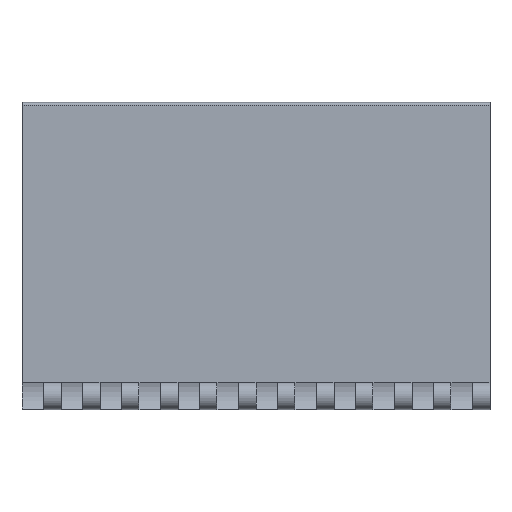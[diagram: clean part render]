
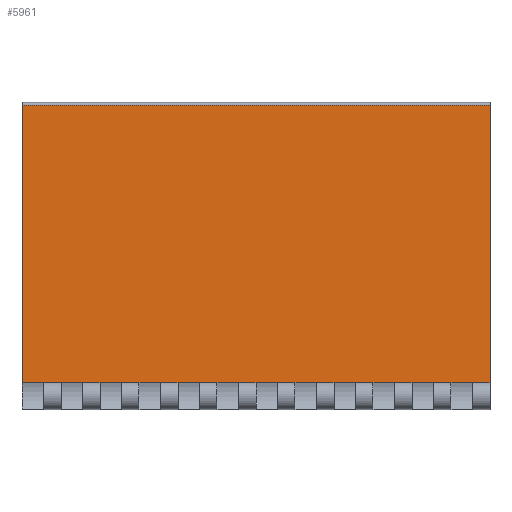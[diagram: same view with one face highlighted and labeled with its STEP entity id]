
A CAD part, left-side view. The second image highlights one B-rep face of the part: STEP entity #5961.
In plain terms, the highlighted planar face has unit normal (-1, 0, 0.013).
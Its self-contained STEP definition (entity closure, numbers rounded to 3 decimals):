
#1238=CARTESIAN_POINT('Line Origine',(-3.2,0.,4.4)) ;
#1242=CARTESIAN_POINT('Vertex',(-3.2,-76.2,4.4)) ;
#1244=CARTESIAN_POINT('Vertex',(-3.2,76.2,4.4)) ;
#5931=CARTESIAN_POINT('Axis2P3D Location',(-2.,0.,95.6)) ;
#5936=CARTESIAN_POINT('Line Origine',(-2.013,0.,94.613)) ;
#5940=CARTESIAN_POINT('Vertex',(-2.013,-76.2,94.613)) ;
#5942=CARTESIAN_POINT('Vertex',(-2.013,76.2,94.613)) ;
#5945=CARTESIAN_POINT('Line Origine',(-2.606,76.2,49.507)) ;
#5950=CARTESIAN_POINT('Line Origine',(-2.606,-76.2,49.507)) ;
#1239=DIRECTION('Vector Direction',(0.,1.,0.)) ;
#5932=DIRECTION('Axis2P3D Direction',(1.,0.,-0.013)) ;
#5933=DIRECTION('Axis2P3D XDirection',(-0.013,0.,-1.)) ;
#5937=DIRECTION('Vector Direction',(0.,1.,0.)) ;
#5946=DIRECTION('Vector Direction',(-0.013,0.,-1.)) ;
#5951=DIRECTION('Vector Direction',(-0.013,0.,-1.)) ;
#5934=AXIS2_PLACEMENT_3D('Plane Axis2P3D',#5931,#5932,#5933) ;
#5956=ORIENTED_EDGE('',*,*,#5944,.T.) ;
#5957=ORIENTED_EDGE('',*,*,#5949,.F.) ;
#5958=ORIENTED_EDGE('',*,*,#1246,.F.) ;
#5959=ORIENTED_EDGE('',*,*,#5954,.T.) ;
#1240=VECTOR('Line Direction',#1239,1.) ;
#5938=VECTOR('Line Direction',#5937,1.) ;
#5947=VECTOR('Line Direction',#5946,1.) ;
#5952=VECTOR('Line Direction',#5951,1.) ;
#5961=ADVANCED_FACE('PartBody',(#5960),#5935,.F.) ;
#1246=EDGE_CURVE('',#1243,#1245,#1241,.T.) ;
#5944=EDGE_CURVE('',#5941,#5943,#5939,.T.) ;
#5949=EDGE_CURVE('',#1245,#5943,#5948,.F.) ;
#5954=EDGE_CURVE('',#1243,#5941,#5953,.F.) ;
#5955=EDGE_LOOP('',(#5956,#5957,#5958,#5959)) ;
#5960=FACE_OUTER_BOUND('',#5955,.T.) ;
#1241=LINE('Line',#1238,#1240) ;
#5939=LINE('Line',#5936,#5938) ;
#5948=LINE('Line',#5945,#5947) ;
#5953=LINE('Line',#5950,#5952) ;
#5935=PLANE('',#5934) ;
#1243=VERTEX_POINT('',#1242) ;
#1245=VERTEX_POINT('',#1244) ;
#5941=VERTEX_POINT('',#5940) ;
#5943=VERTEX_POINT('',#5942) ;
